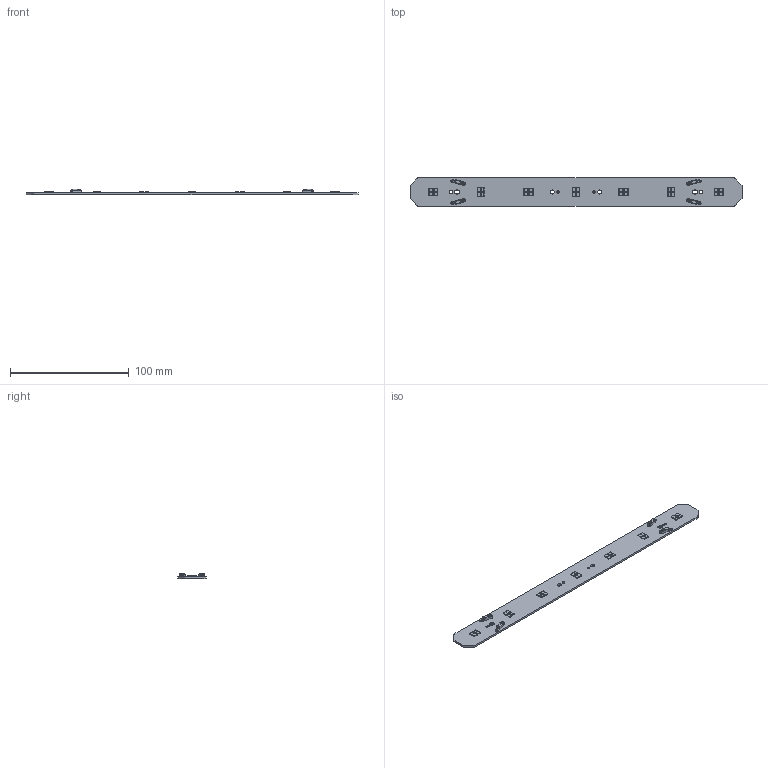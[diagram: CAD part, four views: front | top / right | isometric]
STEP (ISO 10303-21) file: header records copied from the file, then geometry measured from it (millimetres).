
FILE_DESCRIPTION(/* description */ ('Unknown'),/* implementation_level */ '2;1');
FILE_NAME(/* name */ 'LinLED 280x24mm 1100lm 4C 42V DAISY-7X1 sh-000 2025-10-21 ',/* time_stamp */ '2025-10-22T09:52:08+02:00',/* author */ ('Unknown'),/* organization */ ('Unknown'),/* preprocessor_version */ 'ST-DEVELOPER v18.102',/* originating_system */ 'Solid Edge',/* authorisation */ 'Unknown');
FILE_SCHEMA (('AUTOMOTIVE_DESIGN {1 0 10303 214 3 1 1}'));
Products named in the file (1): LinLED 280x24mm 1100lm 4C 42V DAISY-7X1 sh-000 2025-10-21 
Bounding box: 279 x 24 x 4.33 mm (x, y, z)
Volume: 10877.4 mm3; surface area: 14962.2 mm2
Topology: 1 solids, 1 shells, 1664 faces, 4996 edges, 3444 vertices
Faces by surface type: plane 1194, cylinder 412, bspline 32, sphere 18, cone 4, torus 4
Full cylindrical faces by diameter (mm): 1.25 x4, 2 x2, 2.1 x4, 3.4 x2
Entity records: 69185 total; most frequent: CARTESIAN_POINT 12219, ORIENTED_EDGE 9896, DIRECTION 8794, EDGE_CURVE 4948, LINE 3680, VECTOR 3680, VERTEX_POINT 3422, AXIS2_PLACEMENT_3D 2557
